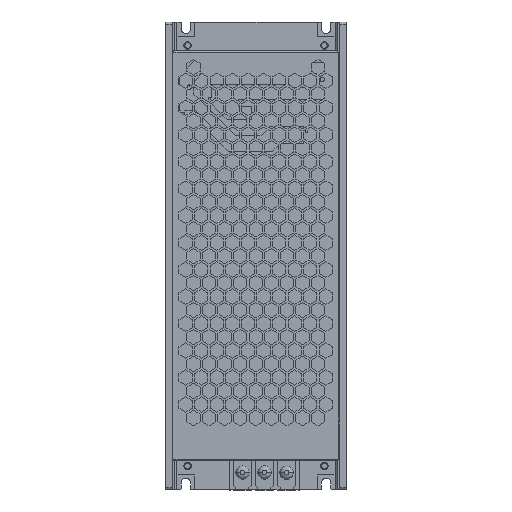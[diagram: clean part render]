
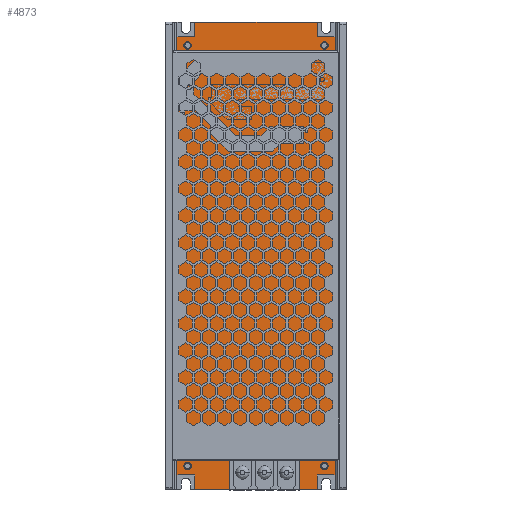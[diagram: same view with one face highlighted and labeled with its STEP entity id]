
A CAD part, top view. The second image highlights one B-rep face of the part: STEP entity #4873.
In plain terms, the highlighted planar face has unit normal (0, 0, 1).
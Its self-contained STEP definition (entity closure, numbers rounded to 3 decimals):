
#4302=CARTESIAN_POINT('',(31.573,249.91,184.6));
#4303=DIRECTION('',(0.,0.,1.));
#4304=DIRECTION('',(-1.,0.,0.));
#4305=AXIS2_PLACEMENT_3D('',#4302,#4303,#4304);
#4310=CARTESIAN_POINT('',(31.573,249.91,184.6));
#4311=DIRECTION('',(0.,0.,1.));
#4312=DIRECTION('',(1.,0.,0.));
#4313=AXIS2_PLACEMENT_3D('',#4310,#4311,#4312);
#4318=CARTESIAN_POINT('',(93.073,249.91,184.6));
#4319=DIRECTION('',(0.,0.,1.));
#4320=DIRECTION('',(-1.,0.,0.));
#4321=AXIS2_PLACEMENT_3D('',#4318,#4319,#4320);
#4326=CARTESIAN_POINT('',(93.073,249.91,184.6));
#4327=DIRECTION('',(0.,0.,1.));
#4328=DIRECTION('',(1.,0.,0.));
#4329=AXIS2_PLACEMENT_3D('',#4326,#4327,#4328);
#4334=CARTESIAN_POINT('',(93.073,60.91,184.6));
#4335=DIRECTION('',(0.,0.,1.));
#4336=DIRECTION('',(-1.,0.,0.));
#4337=AXIS2_PLACEMENT_3D('',#4334,#4335,#4336);
#4342=CARTESIAN_POINT('',(93.073,60.91,184.6));
#4343=DIRECTION('',(0.,0.,1.));
#4344=DIRECTION('',(1.,0.,0.));
#4345=AXIS2_PLACEMENT_3D('',#4342,#4343,#4344);
#4350=CARTESIAN_POINT('',(31.573,60.91,184.6));
#4351=DIRECTION('',(0.,0.,1.));
#4352=DIRECTION('',(-1.,0.,0.));
#4353=AXIS2_PLACEMENT_3D('',#4350,#4351,#4352);
#4358=CARTESIAN_POINT('',(31.573,60.91,184.6));
#4359=DIRECTION('',(0.,0.,1.));
#4360=DIRECTION('',(1.,0.,0.));
#4361=AXIS2_PLACEMENT_3D('',#4358,#4359,#4360);
#4366=DIRECTION('',(-1.,0.,0.));
#4367=VECTOR('',#4366,55.);
#4368=CARTESIAN_POINT('',(89.823,50.41,184.6));
#4369=LINE('',#4368,#4367);
#4387=DIRECTION('',(0.,1.,0.));
#4388=VECTOR('',#4387,6.5);
#4389=CARTESIAN_POINT('',(89.823,50.41,184.6));
#4390=LINE('',#4389,#4388);
#4408=DIRECTION('',(-1.,0.,0.));
#4409=VECTOR('',#4408,8.);
#4410=CARTESIAN_POINT('',(97.823,56.91,184.6));
#4411=LINE('',#4410,#4409);
#4422=DIRECTION('',(0.,1.,0.));
#4423=VECTOR('',#4422,197.);
#4424=CARTESIAN_POINT('',(97.823,56.91,184.6));
#4425=LINE('',#4424,#4423);
#4450=DIRECTION('',(-1.,0.,0.));
#4451=VECTOR('',#4450,8.);
#4452=CARTESIAN_POINT('',(97.823,253.91,184.6));
#4453=LINE('',#4452,#4451);
#4471=DIRECTION('',(0.,1.,0.));
#4472=VECTOR('',#4471,6.5);
#4473=CARTESIAN_POINT('',(89.823,253.91,184.6));
#4474=LINE('',#4473,#4472);
#4492=DIRECTION('',(-1.,0.,0.));
#4493=VECTOR('',#4492,55.);
#4494=CARTESIAN_POINT('',(89.823,260.41,184.6));
#4495=LINE('',#4494,#4493);
#4513=DIRECTION('',(0.,1.,0.));
#4514=VECTOR('',#4513,6.5);
#4515=CARTESIAN_POINT('',(34.823,253.91,184.6));
#4516=LINE('',#4515,#4514);
#4534=DIRECTION('',(-1.,0.,0.));
#4535=VECTOR('',#4534,8.);
#4536=CARTESIAN_POINT('',(34.823,253.91,184.6));
#4537=LINE('',#4536,#4535);
#4555=DIRECTION('',(0.,1.,0.));
#4556=VECTOR('',#4555,197.);
#4557=CARTESIAN_POINT('',(26.823,56.91,184.6));
#4558=LINE('',#4557,#4556);
#4576=DIRECTION('',(-1.,0.,0.));
#4577=VECTOR('',#4576,8.);
#4578=CARTESIAN_POINT('',(34.823,56.91,184.6));
#4579=LINE('',#4578,#4577);
#4597=DIRECTION('',(0.,1.,0.));
#4598=VECTOR('',#4597,6.5);
#4599=CARTESIAN_POINT('',(34.823,50.41,184.6));
#4600=LINE('',#4599,#4598);
#4738=CARTESIAN_POINT('',(97.823,56.91,184.6));
#4739=CARTESIAN_POINT('',(89.823,56.91,184.6));
#4740=VERTEX_POINT('',#4738);
#4741=VERTEX_POINT('',#4739);
#4742=CARTESIAN_POINT('',(97.823,253.91,184.6));
#4743=VERTEX_POINT('',#4742);
#4744=CARTESIAN_POINT('',(89.823,253.91,184.6));
#4745=VERTEX_POINT('',#4744);
#4746=CARTESIAN_POINT('',(89.823,260.41,184.6));
#4747=VERTEX_POINT('',#4746);
#4748=CARTESIAN_POINT('',(34.823,260.41,184.6));
#4749=VERTEX_POINT('',#4748);
#4750=CARTESIAN_POINT('',(34.823,253.91,184.6));
#4751=VERTEX_POINT('',#4750);
#4752=CARTESIAN_POINT('',(26.823,253.91,184.6));
#4753=VERTEX_POINT('',#4752);
#4754=CARTESIAN_POINT('',(26.823,56.91,184.6));
#4755=VERTEX_POINT('',#4754);
#4756=CARTESIAN_POINT('',(34.823,56.91,184.6));
#4757=VERTEX_POINT('',#4756);
#4758=CARTESIAN_POINT('',(34.823,50.41,184.6));
#4759=VERTEX_POINT('',#4758);
#4760=CARTESIAN_POINT('',(89.823,50.41,184.6));
#4761=VERTEX_POINT('',#4760);
#4790=CARTESIAN_POINT('',(29.923,249.91,184.6));
#4791=CARTESIAN_POINT('',(33.223,249.91,184.6));
#4792=VERTEX_POINT('',#4790);
#4793=VERTEX_POINT('',#4791);
#4794=CARTESIAN_POINT('',(91.423,249.91,184.6));
#4795=CARTESIAN_POINT('',(94.723,249.91,184.6));
#4796=VERTEX_POINT('',#4794);
#4797=VERTEX_POINT('',#4795);
#4802=CARTESIAN_POINT('',(91.423,60.91,184.6));
#4803=CARTESIAN_POINT('',(94.723,60.91,184.6));
#4804=VERTEX_POINT('',#4802);
#4805=VERTEX_POINT('',#4803);
#4810=CARTESIAN_POINT('',(29.923,60.91,184.6));
#4811=CARTESIAN_POINT('',(33.223,60.91,184.6));
#4812=VERTEX_POINT('',#4810);
#4813=VERTEX_POINT('',#4811);
#4818=CARTESIAN_POINT('',(54.72,54.814,184.6));
#4819=DIRECTION('',(0.,0.,1.));
#4820=DIRECTION('',(1.,0.,0.));
#4821=AXIS2_PLACEMENT_3D('',#4818,#4819,#4820);
#4822=PLANE('',#4821);
#4824=ORIENTED_EDGE('',*,*,#4823,.T.);
#4826=ORIENTED_EDGE('',*,*,#4825,.T.);
#4828=ORIENTED_EDGE('',*,*,#4827,.T.);
#4830=ORIENTED_EDGE('',*,*,#4829,.T.);
#4832=ORIENTED_EDGE('',*,*,#4831,.F.);
#4834=ORIENTED_EDGE('',*,*,#4833,.T.);
#4836=ORIENTED_EDGE('',*,*,#4835,.F.);
#4838=ORIENTED_EDGE('',*,*,#4837,.F.);
#4840=ORIENTED_EDGE('',*,*,#4839,.F.);
#4842=ORIENTED_EDGE('',*,*,#4841,.F.);
#4844=ORIENTED_EDGE('',*,*,#4843,.T.);
#4846=ORIENTED_EDGE('',*,*,#4845,.F.);
#4847=EDGE_LOOP('',(#4824,#4826,#4828,#4830,#4832,#4834,#4836,#4838,#4840,#4842,
#4844,#4846));
#4848=FACE_OUTER_BOUND('',#4847,.F.);
#4850=ORIENTED_EDGE('',*,*,#4849,.T.);
#4852=ORIENTED_EDGE('',*,*,#4851,.T.);
#4853=EDGE_LOOP('',(#4850,#4852));
#4854=FACE_BOUND('',#4853,.F.);
#4856=ORIENTED_EDGE('',*,*,#4855,.T.);
#4858=ORIENTED_EDGE('',*,*,#4857,.T.);
#4859=EDGE_LOOP('',(#4856,#4858));
#4860=FACE_BOUND('',#4859,.F.);
#4862=ORIENTED_EDGE('',*,*,#4861,.T.);
#4864=ORIENTED_EDGE('',*,*,#4863,.T.);
#4865=EDGE_LOOP('',(#4862,#4864));
#4866=FACE_BOUND('',#4865,.F.);
#4868=ORIENTED_EDGE('',*,*,#4867,.T.);
#4870=ORIENTED_EDGE('',*,*,#4869,.T.);
#4871=EDGE_LOOP('',(#4868,#4870));
#4872=FACE_BOUND('',#4871,.F.);
#4306=CIRCLE('',#4305,1.65);
#4314=CIRCLE('',#4313,1.65);
#4322=CIRCLE('',#4321,1.65);
#4330=CIRCLE('',#4329,1.65);
#4338=CIRCLE('',#4337,1.65);
#4346=CIRCLE('',#4345,1.65);
#4354=CIRCLE('',#4353,1.65);
#4362=CIRCLE('',#4361,1.65);
#4823=EDGE_CURVE('',#4761,#4759,#4369,.T.);
#4825=EDGE_CURVE('',#4759,#4757,#4600,.T.);
#4827=EDGE_CURVE('',#4757,#4755,#4579,.T.);
#4829=EDGE_CURVE('',#4755,#4753,#4558,.T.);
#4831=EDGE_CURVE('',#4751,#4753,#4537,.T.);
#4833=EDGE_CURVE('',#4751,#4749,#4516,.T.);
#4835=EDGE_CURVE('',#4747,#4749,#4495,.T.);
#4837=EDGE_CURVE('',#4745,#4747,#4474,.T.);
#4839=EDGE_CURVE('',#4743,#4745,#4453,.T.);
#4841=EDGE_CURVE('',#4740,#4743,#4425,.T.);
#4843=EDGE_CURVE('',#4740,#4741,#4411,.T.);
#4845=EDGE_CURVE('',#4761,#4741,#4390,.T.);
#4849=EDGE_CURVE('',#4792,#4793,#4306,.T.);
#4851=EDGE_CURVE('',#4793,#4792,#4314,.T.);
#4855=EDGE_CURVE('',#4796,#4797,#4322,.T.);
#4857=EDGE_CURVE('',#4797,#4796,#4330,.T.);
#4861=EDGE_CURVE('',#4804,#4805,#4338,.T.);
#4863=EDGE_CURVE('',#4805,#4804,#4346,.T.);
#4867=EDGE_CURVE('',#4812,#4813,#4354,.T.);
#4869=EDGE_CURVE('',#4813,#4812,#4362,.T.);
#4873=ADVANCED_FACE('',(#4848,#4854,#4860,#4866,#4872),#4822,.T.);
